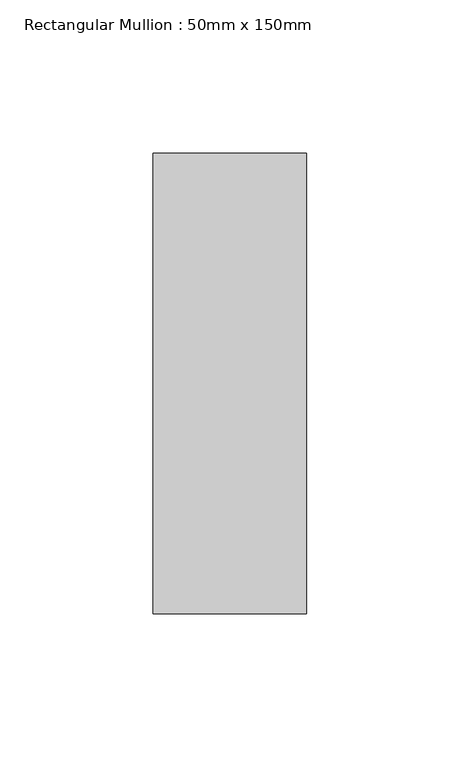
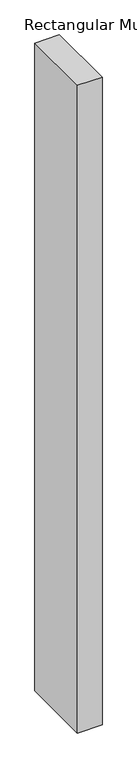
"""IFC4 building model written with IfcOpenShell, lengths in millimetres: member geometry, Rectangular Mullion : 50mm x 150mm."""

import ifcopenshell
import ifcopenshell.guid

model = None  # the IFC model being written
_history = None  # IfcOwnerHistory: only IFC2X3 demands one
_inside = {}  # id of a spatial element -> (the spatial element, [elements in it])
_under = {}  # id of a project, library or spatial element -> (it, [spatial elements below it])
_declared = {}  # id of a project -> (the project, [libraries it declares])
_typed = {}  # id of a type object -> (the type object, [elements of that type])
_made_of = {}  # id of a material, layer set ... -> (it, [elements and type objects made of it])


def new_model(schema):
    """Start an empty IFC model of exactly this schema.

    Asked for "IFC4X3", IfcOpenShell would pick the latest addendum, in which some entities
    have other attributes; the version numbers below select the first issue.
    IFC2X3 requires an IfcOwnerHistory on every rooted entity: one is made here for all.
    """
    global model, _history
    if schema == "IFC4X3":
        model = ifcopenshell.file(schema_version=(4, 3, 0, 0))
    else:
        model = ifcopenshell.file(schema=schema)
    _inside.clear()
    _under.clear()
    _declared.clear()
    _typed.clear()
    _made_of.clear()
    _history = None
    if model.schema == "IFC2X3":
        org = make("IfcOrganization", Name="unknown")
        user = make(
            "IfcPersonAndOrganization",
            ThePerson=make("IfcPerson", FamilyName="unknown"),
            TheOrganization=org,
        )
        app = make(
            "IfcApplication",
            ApplicationDeveloper=org,
            Version="unknown",
            ApplicationFullName="unknown",
            ApplicationIdentifier="unknown",
        )
        _history = make(
            "IfcOwnerHistory",
            OwningUser=user,
            OwningApplication=app,
            ChangeAction="ADDED",
            CreationDate=0,
        )
    return model


def make(cls, **values):
    """One entity of the class cls with the attributes given. An attribute that is None is left unset."""
    return model.create_entity(
        cls, **{name: value for name, value in values.items() if value is not None}
    )


def rooted(cls, **values):
    """An entity with a GlobalId (a new one), such as an element, a storey or a relation."""
    return make(cls, GlobalId=ifcopenshell.guid.new(), OwnerHistory=_history, **values)


def si_unit(unit_type, name, prefix=None):
    """IfcSIUnit, for example si_unit("LENGTHUNIT", "METRE", prefix="MILLI")."""
    return make("IfcSIUnit", UnitType=unit_type, Prefix=prefix, Name=name)


def assignment(units):
    """IfcUnitAssignment: the units of a project."""
    return None if units is None else make("IfcUnitAssignment", Units=units)


def point(xyz):
    """IfcCartesianPoint."""
    return None if xyz is None else make("IfcCartesianPoint", Coordinates=xyz)


def direction(xyz):
    """IfcDirection."""
    return None if xyz is None else make("IfcDirection", DirectionRatios=xyz)


def frame(location, z_axis=None, x_axis=None):
    """IfcAxis2Placement3D, a coordinate frame: its origin and axes. An axis left out is left unset."""
    return make(
        "IfcAxis2Placement3D",
        Location=point(location),
        Axis=direction(z_axis),
        RefDirection=direction(x_axis),
    )


def origin():
    """The frame at (0, 0, 0) with its axes left unset."""
    return frame((0.0, 0.0, 0.0))


def place(relative_to, where):
    """IfcLocalPlacement: puts the frame where relative to a parent placement (None: the world)."""
    return make(
        "IfcLocalPlacement", PlacementRelTo=relative_to, RelativePlacement=where
    )


def context(
    kind, dimensions, precision=None, world=None, true_north=None, identifier=None
):
    """IfcGeometricRepresentationContext, for example the 3D "Model" context."""
    return make(
        "IfcGeometricRepresentationContext",
        ContextIdentifier=identifier,
        ContextType=kind,
        CoordinateSpaceDimension=dimensions,
        Precision=precision,
        WorldCoordinateSystem=world,
        TrueNorth=true_north,
    )


def project(units=None, contexts=None):
    """IfcProject with its units and contexts."""
    return rooted(
        "IfcProject",
        Name="project",
        RepresentationContexts=contexts,
        UnitsInContext=assignment(units),
    )


def spatial(cls, under=None, at=None, **own):
    """A site, building, storey or space (cls), placed at a placement, below another one or the project."""
    s = rooted(cls, ObjectPlacement=at, **own)
    if under is not None:
        _under.setdefault(under.id(), (under, []))[1].append(s)
    return s


def polyline(points):
    """IfcPolyline through the points."""
    return make("IfcPolyline", Points=[point(p) for p in points])


def outline(outer, holes=None, kind="AREA"):
    """IfcArbitraryClosedProfileDef: a profile drawn as a closed curve; with holes, ...WithVoids."""
    if holes is None:
        return make("IfcArbitraryClosedProfileDef", ProfileType=kind, OuterCurve=outer)
    return make(
        "IfcArbitraryProfileDefWithVoids",
        ProfileType=kind,
        OuterCurve=outer,
        InnerCurves=holes,
    )


def extrude(swept, where, along, depth):
    """IfcExtrudedAreaSolid: the profile swept, set in the frame where, extruded along a direction by depth."""
    return make(
        "IfcExtrudedAreaSolid",
        SweptArea=swept,
        Position=where,
        ExtrudedDirection=direction(along),
        Depth=depth,
    )


def shape(context_of_items, identifier, shape_type, items):
    """IfcShapeRepresentation: the items that make up one representation, for example the "Body"."""
    return make(
        "IfcShapeRepresentation",
        ContextOfItems=context_of_items,
        RepresentationIdentifier=identifier,
        RepresentationType=shape_type,
        Items=items,
    )


def source(mapping_origin, context_of_items, identifier, shape_type, items):
    """IfcRepresentationMap: a shape defined once, which mapped items show again and again."""
    return make(
        "IfcRepresentationMap",
        MappingOrigin=mapping_origin,
        MappedRepresentation=shape(context_of_items, identifier, shape_type, items),
    )


def transform(
    local_origin,
    x_axis=None,
    y_axis=None,
    z_axis=None,
    scale=None,
    scale2=None,
    scale3=None,
    uniform=True,
):
    """IfcCartesianTransformationOperator3D, or its non-uniform kind. x_axis, y_axis, z_axis: its Axis1, 2, 3."""
    if uniform:
        return make(
            "IfcCartesianTransformationOperator3D",
            Axis1=direction(x_axis),
            Axis2=direction(y_axis),
            LocalOrigin=point(local_origin),
            Scale=scale,
            Axis3=direction(z_axis),
        )
    return make(
        "IfcCartesianTransformationOperator3DnonUniform",
        Axis1=direction(x_axis),
        Axis2=direction(y_axis),
        LocalOrigin=point(local_origin),
        Scale=scale,
        Axis3=direction(z_axis),
        Scale2=scale2,
        Scale3=scale3,
    )


def mapped(mapping_source, mapping_target):
    """IfcMappedItem: shows the shape of a source again, moved by a transform."""
    return make(
        "IfcMappedItem", MappingSource=mapping_source, MappingTarget=mapping_target
    )


def made_of(thing, what):
    """Note that an element or type object is made of a material, layer set ...; save() writes the relation."""
    if what is not None:
        _made_of.setdefault(what.id(), (what, []))[1].append(thing)
    return thing


def element(
    cls,
    number,
    at=None,
    inside=None,
    cuts=None,
    type_object=None,
    material=None,
    context=None,
    identifier="Body",
    shape_type=None,
    held_by="IfcProductDefinitionShape",
    body=None,
    shapes=None,
    **own,
):
    """One element of the class cls, such as IfcWall. Its Tag is "e" and its number.

    at: its placement. inside: the storey or other place that contains it. cuts: it is an
    opening in that element (IfcRelVoidsElement). A single representation is given by context,
    identifier, shape_type and body (its items); several are given by shapes. held_by: the class
    of the entity that holds the representations. save() writes the other relations.
    """
    e = rooted(cls, Tag="e%d" % number, ObjectPlacement=at, **own)
    if body is not None:
        shapes = [shape(context, identifier, shape_type, body)]
    if shapes is not None:
        e.Representation = make(held_by, Representations=shapes)
    if inside is not None:
        _inside.setdefault(inside.id(), (inside, []))[1].append(e)
    if cuts is not None:
        rooted(
            "IfcRelVoidsElement", RelatingBuildingElement=cuts, RelatedOpeningElement=e
        )
    if type_object is not None:
        _typed.setdefault(type_object.id(), (type_object, []))[1].append(e)
    return made_of(e, material)


def aggregate(whole, parts):
    """IfcRelAggregates: a whole, such as a stair, and the parts it consists of."""
    return rooted("IfcRelAggregates", RelatingObject=whole, RelatedObjects=parts)


def save(model, path):
    """Write the relations noted so far, then the file.

    IfcRelAggregates (storeys below a building ...), IfcRelContainedInSpatialStructure (elements
    in a storey), IfcRelDefinesByType, IfcRelAssociatesMaterial and IfcRelDeclares: one each for
    every whole, place, type object, material and project.
    """
    for whole, parts in _under.values():
        aggregate(whole, parts)
    for where, things in _inside.values():
        rooted(
            "IfcRelContainedInSpatialStructure",
            RelatedElements=things,
            RelatingStructure=where,
        )
    for kind, things in _typed.values():
        rooted("IfcRelDefinesByType", RelatedObjects=things, RelatingType=kind)
    for what, things in _made_of.values():
        rooted("IfcRelAssociatesMaterial", RelatedObjects=things, RelatingMaterial=what)
    for by, libraries in _declared.values():
        rooted("IfcRelDeclares", RelatingContext=by, RelatedDefinitions=libraries)
    model.write(path)


def rectangular_mullion_50mm_x_150mm_9219ffc6(model_context):
    return source(origin(), model_context, "Body", "SweptSolid", [
        extrude(outline(polyline([(25.0, 75.0), (25.0, -75.0), (-25.0, -75.0), (-25.0, 75.0), (25.0, 75.0)])), frame((0.0, 0.0, -1392.4732205), z_axis=(0.0, 0.0, 1.0), x_axis=(1.0, 0.0, 0.0)), (0.0, 0.0, 1.0), 1392.4732205),
    ])


if __name__ == "__main__":
    model = new_model("IFC4")
    model_context = context("Model", 3, world=origin())
    ifc_project = project(units=[si_unit("LENGTHUNIT", "METRE", prefix="MILLI")], contexts=[model_context])
    site = spatial("IfcSite", under=ifc_project)
    building = spatial("IfcBuilding", under=site)
    placement = place(None, origin())
    rectangular_mullion_50mm_x_150mm_shape = rectangular_mullion_50mm_x_150mm_9219ffc6(model_context)
    element("IfcMember", 1, ObjectType="Rectangular Mullion : 50mm x 150mm", at=placement, inside=building, context=model_context, shape_type="MappedRepresentation", body=[
        mapped(rectangular_mullion_50mm_x_150mm_shape, transform((0.0, 0.0, 0.0), x_axis=(1.0, 0.0, 0.0), y_axis=(0.0, 1.0, 0.0), z_axis=(0.0, 0.0, 1.0))),
    ])
    save(model, "model.ifc")
